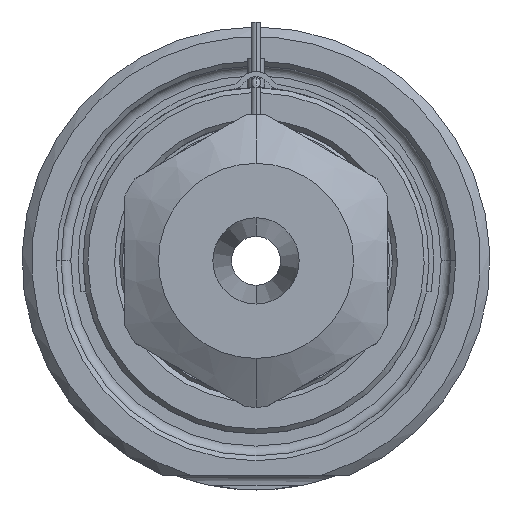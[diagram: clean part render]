
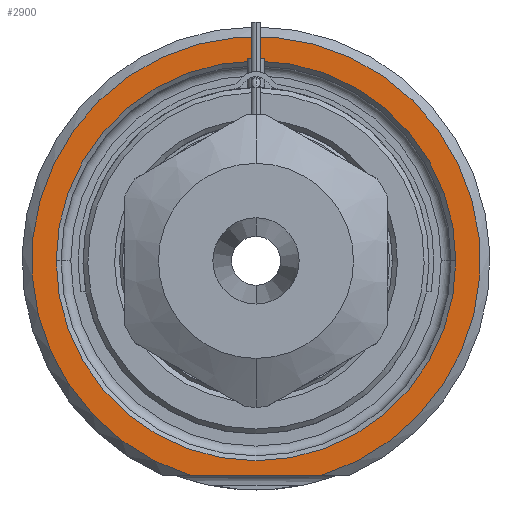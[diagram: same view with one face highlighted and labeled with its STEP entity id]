
A CAD part, front view. The second image highlights one B-rep face of the part: STEP entity #2900.
In plain terms, the highlighted planar face has unit normal (0, -1, 0).
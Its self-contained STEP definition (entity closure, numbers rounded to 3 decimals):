
#1=DIRECTION('',(1.,0.,0.));
#2=VECTOR('',#1,13.416);
#3=CARTESIAN_POINT('',(-6.708,0.,-22.));
#4=LINE('',#3,#2);
#5=CARTESIAN_POINT('',(0.,0.,0.));
#6=DIRECTION('',(0.,1.,0.));
#7=DIRECTION('',(-1.,0.,0.));
#8=AXIS2_PLACEMENT_3D('',#5,#6,#7);
#10=CARTESIAN_POINT('',(0.,0.,0.));
#11=DIRECTION('',(0.,1.,0.));
#12=DIRECTION('',(1.,0.,0.));
#13=AXIS2_PLACEMENT_3D('',#10,#11,#12);
#121=CARTESIAN_POINT('',(0.,0.,0.));
#122=DIRECTION('',(0.,-1.,0.));
#123=DIRECTION('',(0.292,0.,-0.957));
#124=AXIS2_PLACEMENT_3D('',#121,#122,#123);
#2417=CARTESIAN_POINT('',(-20.5,0.,0.));
#2418=CARTESIAN_POINT('',(20.5,0.,0.));
#2419=VERTEX_POINT('',#2417);
#2420=VERTEX_POINT('',#2418);
#2457=CARTESIAN_POINT('',(-6.708,0.,-22.));
#2458=CARTESIAN_POINT('',(6.708,0.,-22.));
#2459=VERTEX_POINT('',#2457);
#2460=VERTEX_POINT('',#2458);
#2883=CARTESIAN_POINT('',(0.,0.,0.));
#2884=DIRECTION('',(0.,-1.,0.));
#2885=DIRECTION('',(1.,0.,0.));
#2886=AXIS2_PLACEMENT_3D('',#2883,#2884,#2885);
#2887=PLANE('',#2886);
#2889=ORIENTED_EDGE('',*,*,#2888,.F.);
#2891=ORIENTED_EDGE('',*,*,#2890,.F.);
#2892=EDGE_LOOP('',(#2889,#2891));
#2893=FACE_OUTER_BOUND('',#2892,.F.);
#2895=ORIENTED_EDGE('',*,*,#2894,.F.);
#2897=ORIENTED_EDGE('',*,*,#2896,.F.);
#2898=EDGE_LOOP('',(#2895,#2897));
#2899=FACE_BOUND('',#2898,.F.);
#2900=ADVANCED_FACE('',(#2893,#2899),#2887,.T.);
#9=CIRCLE('',#8,20.5);
#14=CIRCLE('',#13,20.5);
#125=CIRCLE('',#124,23.);
#2888=EDGE_CURVE('',#2459,#2460,#4,.T.);
#2890=EDGE_CURVE('',#2460,#2459,#125,.T.);
#2894=EDGE_CURVE('',#2419,#2420,#9,.T.);
#2896=EDGE_CURVE('',#2420,#2419,#14,.T.);
